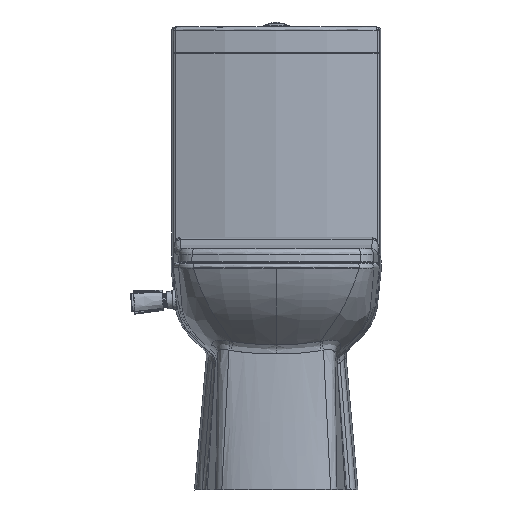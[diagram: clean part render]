
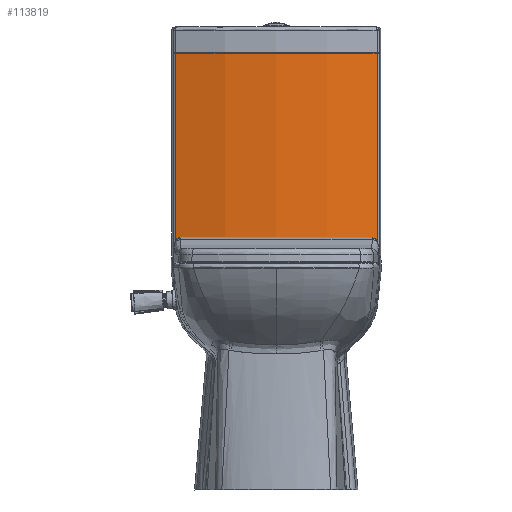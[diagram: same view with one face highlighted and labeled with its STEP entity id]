
A CAD part, top view. The second image highlights one B-rep face of the part: STEP entity #113819.
In plain terms, the highlighted cylindrical face has radius 563.396 mm (diameter 1126.79 mm), a partial arc.
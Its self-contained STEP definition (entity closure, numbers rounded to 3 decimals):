
#10141 = CARTESIAN_POINT ( 'NONE',  ( 193.993, 604.99, -506.656 ) ) ;
#13894 = CARTESIAN_POINT ( 'NONE',  ( 18.482, 559.39, -1042.016 ) ) ;
#15846 = VERTEX_POINT ( 'NONE', #221344 ) ;
#16541 = EDGE_CURVE ( 'NONE', #86294, #15846, #90506, .T. ) ;
#16712 = EDGE_LOOP ( 'NONE', ( #174933, #130015, #79452, #197711 ) ) ;
#18884 = CIRCLE ( 'NONE', #118540, 563.396 ) ;
#44441 = FACE_OUTER_BOUND ( 'NONE', #16712, .T. ) ;
#56440 = CARTESIAN_POINT ( 'NONE',  ( 18.482, 207.99, -1042.016 ) ) ;
#59569 = LINE ( 'NONE', #100040, #105528 ) ;
#67927 = EDGE_CURVE ( 'NONE', #120013, #128031, #18884, .T. ) ;
#79452 = ORIENTED_EDGE ( 'NONE', *, *, #223689, .T. ) ;
#86098 = AXIS2_PLACEMENT_3D ( 'NONE', #140468, #154894, #210090 ) ;
#86294 = VERTEX_POINT ( 'NONE', #160172 ) ;
#90506 = CIRCLE ( 'NONE', #176967, 563.396 ) ;
#94796 = EDGE_CURVE ( 'NONE', #120013, #15846, #120726, .T. ) ;
#100040 = CARTESIAN_POINT ( 'NONE',  ( -157.03, 383.69, -506.656 ) ) ;
#105528 = VECTOR ( 'NONE', #150779, 1000. ) ;
#108600 = DIRECTION ( 'NONE',  ( 0., -1., 0. ) ) ;
#113819 = ADVANCED_FACE ( 'NONE', ( #44441 ), #179735, .T. ) ;
#118540 = AXIS2_PLACEMENT_3D ( 'NONE', #56440, #108600, #126022 ) ;
#120013 = VERTEX_POINT ( 'NONE', #141197 ) ;
#120726 = LINE ( 'NONE', #10141, #218243 ) ;
#126022 = DIRECTION ( 'NONE',  ( 1., 0., 0. ) ) ;
#128031 = VERTEX_POINT ( 'NONE', #144243 ) ;
#130015 = ORIENTED_EDGE ( 'NONE', *, *, #16541, .F. ) ;
#136368 = DIRECTION ( 'NONE',  ( -1., 0., 0. ) ) ;
#140468 = CARTESIAN_POINT ( 'NONE',  ( 18.482, 604.99, -1042.016 ) ) ;
#141197 = CARTESIAN_POINT ( 'NONE',  ( 193.993, 207.99, -506.656 ) ) ;
#144243 = CARTESIAN_POINT ( 'NONE',  ( -157.03, 207.99, -506.656 ) ) ;
#149287 = DIRECTION ( 'NONE',  ( 0., 1., 0. ) ) ;
#150779 = DIRECTION ( 'NONE',  ( 0., -1., 0. ) ) ;
#154894 = DIRECTION ( 'NONE',  ( 0., -1., 0. ) ) ;
#160172 = CARTESIAN_POINT ( 'NONE',  ( -157.03, 559.39, -506.656 ) ) ;
#174933 = ORIENTED_EDGE ( 'NONE', *, *, #94796, .T. ) ;
#176967 = AXIS2_PLACEMENT_3D ( 'NONE', #13894, #221899, #136368 ) ;
#179735 = CYLINDRICAL_SURFACE ( 'NONE', #86098, 563.396 ) ;
#197711 = ORIENTED_EDGE ( 'NONE', *, *, #67927, .F. ) ;
#210090 = DIRECTION ( 'NONE',  ( 1., 0., 0. ) ) ;
#218243 = VECTOR ( 'NONE', #149287, 1000. ) ;
#221344 = CARTESIAN_POINT ( 'NONE',  ( 193.993, 559.39, -506.656 ) ) ;
#221899 = DIRECTION ( 'NONE',  ( 0., 1., 0. ) ) ;
#223689 = EDGE_CURVE ( 'NONE', #86294, #128031, #59569, .T. ) ;
